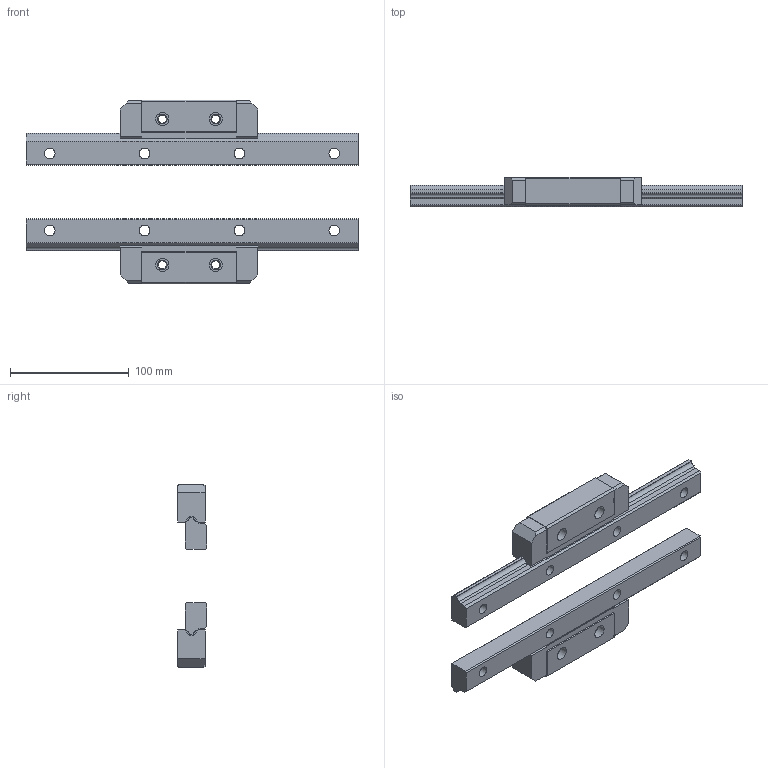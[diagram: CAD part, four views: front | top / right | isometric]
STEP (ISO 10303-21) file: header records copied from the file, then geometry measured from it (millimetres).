
FILE_DESCRIPTION(/* description */ ('STEP AP203'),/* implementation_level */ '2;1');
FILE_NAME(/* name */ 'HR2555-280L_G20_65_82_0_0_0',/* time_stamp */ '2024-05-21T10:47:27+02:00',/* author */ ('License CC BY-ND 4.0'),/* organization */ ('CADENAS'),/* preprocessor_version */ 'ST-DEVELOPER v19.3',/* originating_system */ 'PARTsolutions',/* authorisation */ ' ');
FILE_SCHEMA (('CONFIG_CONTROL_DESIGN'));
Length unit declared in the file: millimetre
Products named in the file (5): HR2555-280L_G20_65_82_0_0_0; HR2555128020-Rail; HR2555-Slider; HR2555128020-Rail2; HR2555-Slider2
Assembly tree (4 placements, depth 2):
  HR2555-280L_G20_65_82_0_0_0
    HR2555128020-Rail
    HR2555-Slider
    HR2555128020-Rail2
    HR2555-Slider2
Bounding box: 280 x 25 x 155 mm (x, y, z)
Volume: 380986.8 mm3; surface area: 84035.4 mm2
Topology: 4 solids, 4 shells, 174 faces, 453 edges, 299 vertices
Faces by surface type: plane 130, cylinder 34, cone 10
Full cylindrical faces by diameter (mm): 3 x2, 6.8 x4, 9 x8, 11 x4, 14 x8
Entity records: 5257 total; most frequent: CARTESIAN_POINT 891, DIRECTION 848, ORIENTED_EDGE 828, EDGE_CURVE 414, LINE 338, VECTOR 338, VERTEX_POINT 298, AXIS2_PLACEMENT_3D 255
